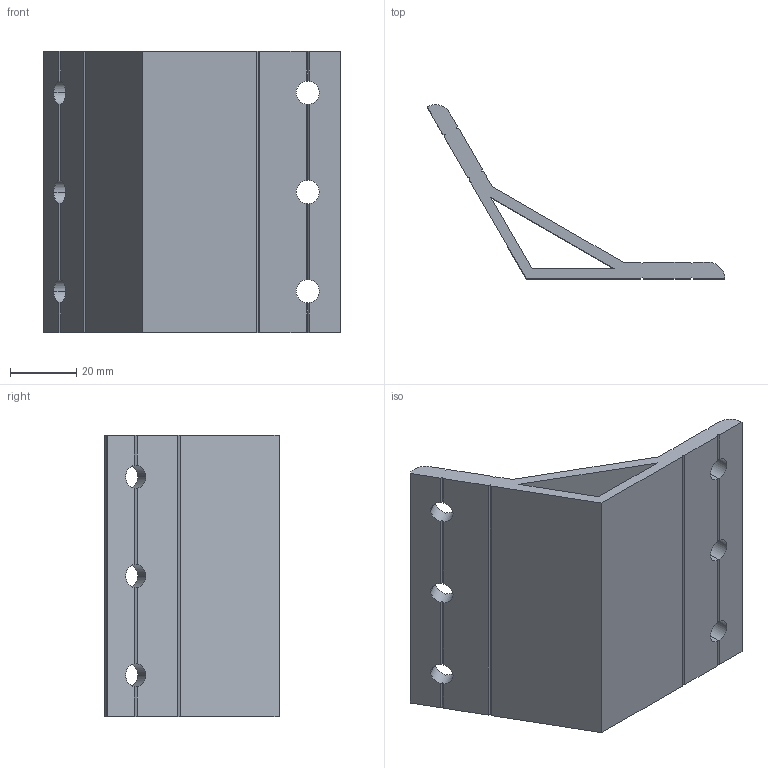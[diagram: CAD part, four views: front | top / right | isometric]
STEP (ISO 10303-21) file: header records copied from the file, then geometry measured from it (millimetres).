
FILE_DESCRIPTION (( 'STEP AP203' ), '1' );
FILE_NAME ('DALV12085-6.STEP', '2020-10-14T02:00:08', ( '' ), ( '' ), 'SwSTEP 2.0', 'SolidWorks 2017', '' );
FILE_SCHEMA (( 'CONFIG_CONTROL_DESIGN' ));
Length unit declared in the file: millimetre
Products named in the file (1): DALV12085-6
Bounding box: 90 x 52.63 x 85 mm (x, y, z)
Volume: 50169.5 mm3; surface area: 29370.2 mm2
Topology: 1 solids, 1 shells, 72 faces, 234 edges, 152 vertices
Faces by surface type: plane 58, cylinder 14
Entity records: 2647 total; most frequent: CARTESIAN_POINT 603, ORIENTED_EDGE 468, DIRECTION 372, EDGE_CURVE 234, VERTEX_POINT 152, LINE 146, VECTOR 146, AXIS2_PLACEMENT_3D 113
